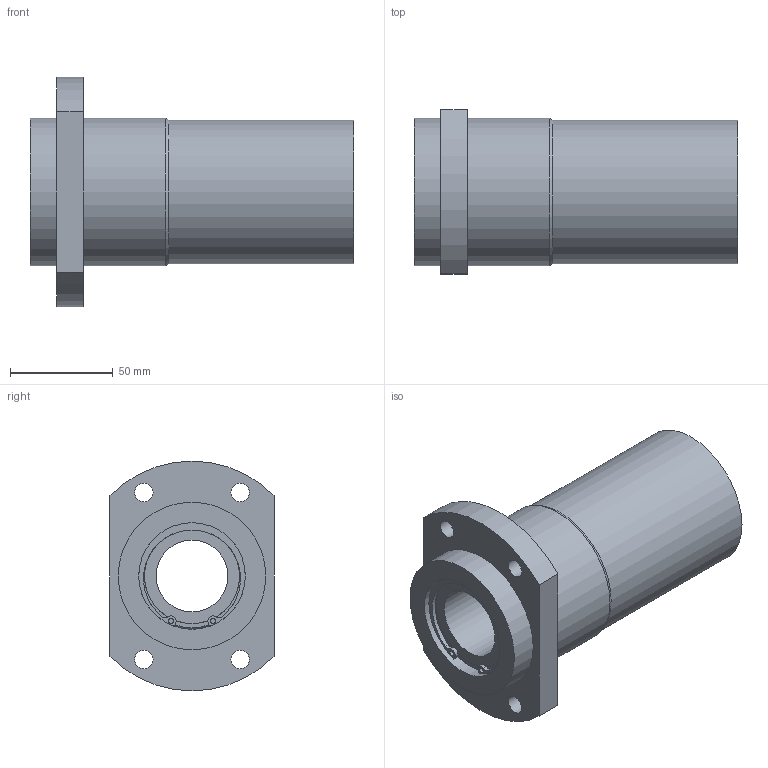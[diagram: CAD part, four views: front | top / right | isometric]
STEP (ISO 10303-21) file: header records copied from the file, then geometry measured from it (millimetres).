
FILE_DESCRIPTION((''),'2;1');
FILE_NAME('C:\Documents and Settings\土屋\My Documents\土屋移動用フォルダ\製品 (図面)\カタログ用3D\変換ファイル\OZAK_3D-CAD(STEP形式)\Part1.-Linear Bearings_ﾘﾆｱﾍﾞｱﾘﾝｸﾞ\09_Maintenance Free_ﾒｲﾝﾃﾅﾝｽﾌﾘｰ\L2017-09-22T13:35:01','2017-09-22T13:35:01',('y'),(''),'Autodesk Inventor 11','Autodesk Inventor 11','');
FILE_SCHEMA(('AUTOMOTIVE_DESIGN { 1 0 10303 214 1 1 1 1 }'));
Length unit declared in the file: millimetre
Products named in the file (1): LFWB35MF
Bounding box: 158 x 80 x 112 mm (x, y, z)
Volume: 508879.7 mm3; surface area: 73314.4 mm2
Topology: 1 solids, 3 shells, 71 faces, 199 edges, 122 vertices
Faces by surface type: plane 29, cylinder 25, bspline 14, torus 2, cone 1
Full cylindrical faces by diameter (mm): 2.5 x2, 9 x4, 35 x1, 46.4 x2, 49 x2, 52 x4, 70 x1, 72 x2
Entity records: 2228 total; most frequent: CARTESIAN_POINT 476, DIRECTION 396, ORIENTED_EDGE 316, AXIS2_PLACEMENT_3D 180, EDGE_CURVE 158, CIRCLE 122, EDGE_LOOP 118, VERTEX_POINT 106
